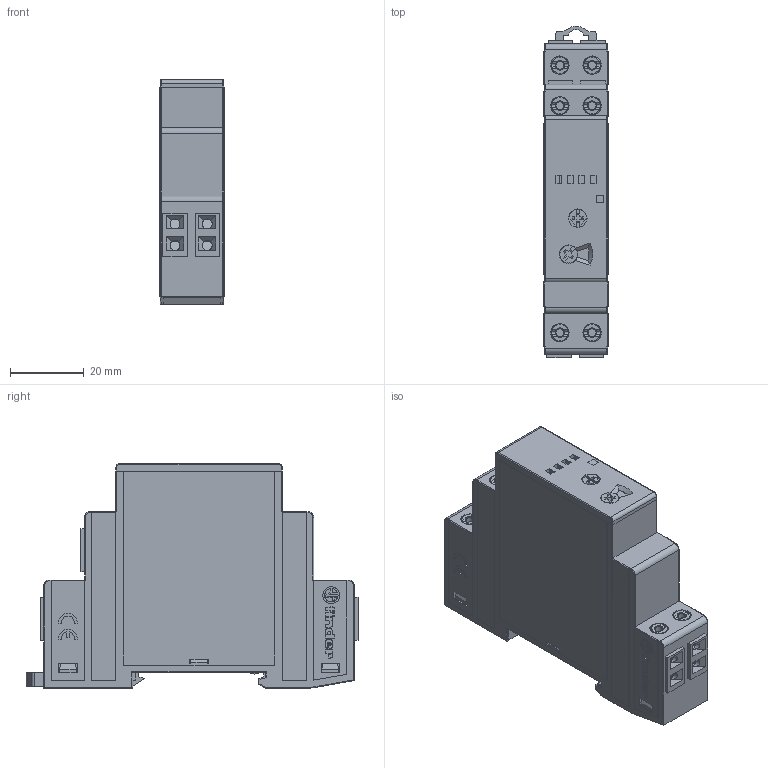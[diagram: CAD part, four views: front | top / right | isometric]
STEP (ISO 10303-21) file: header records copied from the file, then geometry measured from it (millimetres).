
FILE_DESCRIPTION(/* description */ ('Unknown'),/* implementation_level */ '2;1');
FILE_NAME(/* name */ '1401 push-in',/* time_stamp */ '2017-07-11T14:39:32+02:00',/* author */ ('Unknown'),/* organization */ ('Unknown'),/* preprocessor_version */ 'ST-DEVELOPER v16.7',/* originating_system */ 'DEX',/* authorisation */ $);
FILE_SCHEMA (('AUTOMOTIVE_DESIGN {1 0 10303 214 3 1 1}'));
Length unit declared in the file: millimetre
Products named in the file (1): Complessivo 14_01 push-in
Bounding box: 17.5 x 89.85 x 60.8 mm (x, y, z)
Surface area: 17411.1 mm2 (no closed solid volume)
Topology: 0 solids, 34 shells, 902 faces, 2773 edges, 1928 vertices
Faces by surface type: plane 570, cylinder 170, bspline 124, torus 28, cone 10
Full cylindrical faces by diameter (mm): 2.2 x6, 2.7 x12, 3 x2, 5 x7
Entity records: 32378 total; most frequent: CARTESIAN_POINT 8359, ORIENTED_EDGE 4820, DIRECTION 4575, EDGE_CURVE 2710, VERTEX_POINT 1903, LINE 1841, VECTOR 1841, AXIS2_PLACEMENT_3D 1367
